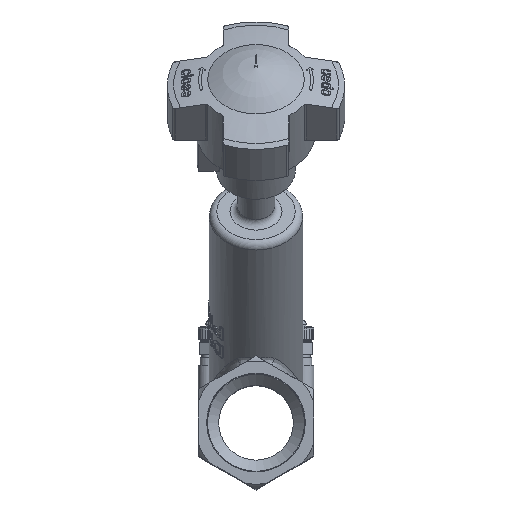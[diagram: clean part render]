
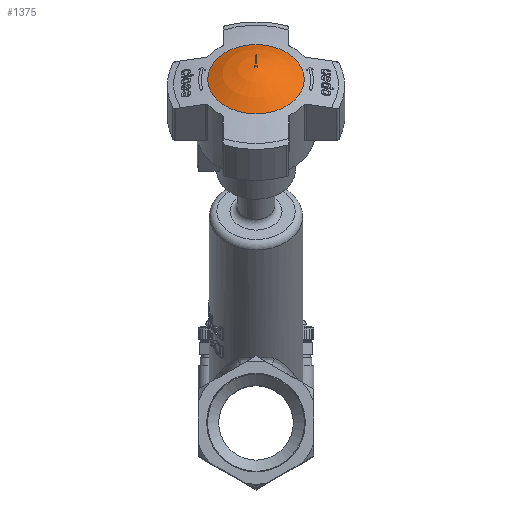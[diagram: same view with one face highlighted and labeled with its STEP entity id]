
A CAD part, top view. The second image highlights one B-rep face of the part: STEP entity #1375.
In plain terms, the highlighted toroidal (fillet/blend) face has major radius 2.334 mm and minor radius 26.945 mm.
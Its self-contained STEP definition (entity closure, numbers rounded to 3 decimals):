
#1375=ADVANCED_FACE('',(#8216),#8218,.F.);
#8216=FACE_BOUND('',#8217,.T.);
#8217=EDGE_LOOP('',(#14868,#14869));
#8218=DEGENERATE_TOROIDAL_SURFACE('',#8219,2.334,26.944,.F.);
#8219=AXIS2_PLACEMENT_3D('',#8220,#8221,#8222);
#8220=CARTESIAN_POINT('',(0.,76.588,63.27));
#8221=DIRECTION('',(0.,-0.695,-0.719));
#8222=DIRECTION('',(0.,0.719,-0.695));
#14868=ORIENTED_EDGE('',*,*,#18851,.T.);
#14869=ORIENTED_EDGE('',*,*,#18850,.T.);
#18850=EDGE_CURVE('',#21049,#21050,#21051,.T.);
#18851=EDGE_CURVE('',#21050,#21049,#21052,.T.);
#21049=VERTEX_POINT('',#28050);
#21050=VERTEX_POINT('',#28051);
#21051=CIRCLE('',#28052,12.937);
#21052=CIRCLE('',#28056,12.937);
#28050=CARTESIAN_POINT('',(0.,82.702,88.226));
#28051=CARTESIAN_POINT('',(0.,101.314,70.252));
#28052=AXIS2_PLACEMENT_3D('',#28053,#28054,#28055);
#28053=CARTESIAN_POINT('',(0.,92.008,79.239));
#28054=DIRECTION('',(0.,0.695,0.719));
#28055=DIRECTION('',(0.,-0.719,0.695));
#28056=AXIS2_PLACEMENT_3D('',#28057,#28058,#28059);
#28057=CARTESIAN_POINT('',(0.,92.008,79.239));
#28058=DIRECTION('',(0.,0.695,0.719));
#28059=DIRECTION('',(0.,0.719,-0.695));
